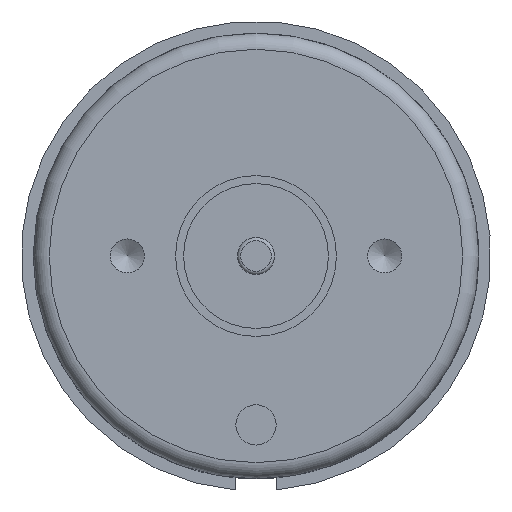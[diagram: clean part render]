
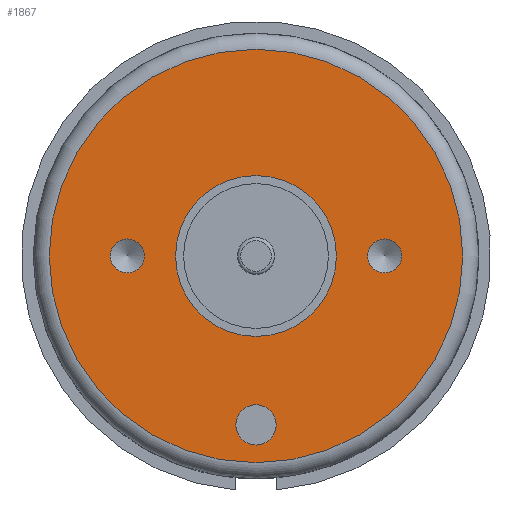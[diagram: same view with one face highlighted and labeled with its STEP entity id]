
A CAD part, front view. The second image highlights one B-rep face of the part: STEP entity #1867.
In plain terms, the highlighted planar face has unit normal (0, -1, 0).
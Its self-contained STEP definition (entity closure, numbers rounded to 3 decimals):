
#40=FACE_BOUND('',#434,.T.);
#41=FACE_BOUND('',#435,.T.);
#42=FACE_BOUND('',#436,.T.);
#43=FACE_BOUND('',#437,.T.);
#123=PLANE('',#2084);
#295=FACE_OUTER_BOUND('',#433,.T.);
#433=EDGE_LOOP('',(#1717));
#434=EDGE_LOOP('',(#1718));
#435=EDGE_LOOP('',(#1719));
#436=EDGE_LOOP('',(#1720));
#437=EDGE_LOOP('',(#1721));
#787=CIRCLE('',#1928,1.25);
#829=CIRCLE('',#2062,1.057);
#831=CIRCLE('',#2066,1.057);
#837=CIRCLE('',#2076,5.);
#838=CIRCLE('',#2079,12.85);
#870=VERTEX_POINT('',#2713);
#984=VERTEX_POINT('',#3106);
#987=VERTEX_POINT('',#3115);
#992=VERTEX_POINT('',#3132);
#993=VERTEX_POINT('',#3137);
#1031=EDGE_CURVE('',#870,#870,#787,.T.);
#1218=EDGE_CURVE('',#984,#984,#829,.T.);
#1222=EDGE_CURVE('',#987,#987,#831,.T.);
#1231=EDGE_CURVE('',#992,#992,#837,.T.);
#1232=EDGE_CURVE('',#993,#993,#838,.T.);
#1717=ORIENTED_EDGE('',*,*,#1232,.F.);
#1718=ORIENTED_EDGE('',*,*,#1218,.T.);
#1719=ORIENTED_EDGE('',*,*,#1222,.T.);
#1720=ORIENTED_EDGE('',*,*,#1231,.T.);
#1721=ORIENTED_EDGE('',*,*,#1031,.T.);
#1867=ADVANCED_FACE('',(#295,#40,#41,#42,#43),#123,.T.);
#1928=AXIS2_PLACEMENT_3D('',#2714,#2171,#2172);
#2062=AXIS2_PLACEMENT_3D('',#3107,#2584,#2585);
#2066=AXIS2_PLACEMENT_3D('',#3116,#2594,#2595);
#2076=AXIS2_PLACEMENT_3D('',#3134,#2617,#2618);
#2079=AXIS2_PLACEMENT_3D('',#3138,#2623,#2624);
#2084=AXIS2_PLACEMENT_3D('',#3147,#2635,#2636);
#2171=DIRECTION('center_axis',(0.,1.,0.));
#2172=DIRECTION('ref_axis',(-1.,0.,0.));
#2584=DIRECTION('center_axis',(0.,1.,0.));
#2585=DIRECTION('ref_axis',(1.,0.,0.));
#2594=DIRECTION('center_axis',(0.,1.,0.));
#2595=DIRECTION('ref_axis',(1.,0.,0.));
#2617=DIRECTION('center_axis',(0.,1.,0.));
#2618=DIRECTION('ref_axis',(-1.,0.,0.));
#2623=DIRECTION('center_axis',(0.,1.,0.));
#2624=DIRECTION('ref_axis',(1.,0.,0.));
#2635=DIRECTION('center_axis',(0.,-1.,0.));
#2636=DIRECTION('ref_axis',(0.,0.,-1.));
#2713=CARTESIAN_POINT('',(1.25,0.,-10.5));
#2714=CARTESIAN_POINT('Origin',(0.,0.,-10.5));
#3106=CARTESIAN_POINT('',(-9.057,0.,0.));
#3107=CARTESIAN_POINT('Origin',(-8.,0.,0.));
#3115=CARTESIAN_POINT('',(6.944,0.,0.));
#3116=CARTESIAN_POINT('Origin',(8.,0.,0.));
#3132=CARTESIAN_POINT('',(5.,0.,0.));
#3134=CARTESIAN_POINT('Origin',(0.,0.,0.));
#3137=CARTESIAN_POINT('',(0.,0.,12.85));
#3138=CARTESIAN_POINT('Origin',(0.,0.,0.));
#3147=CARTESIAN_POINT('Origin',(0.,0.,0.));
